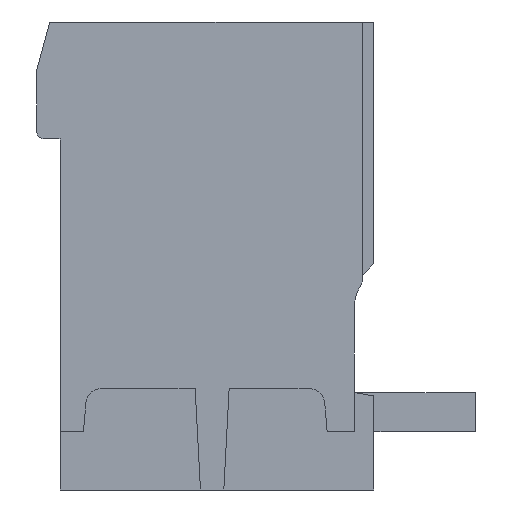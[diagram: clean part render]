
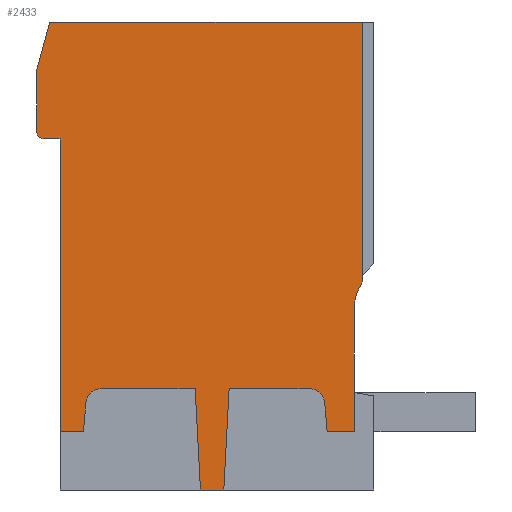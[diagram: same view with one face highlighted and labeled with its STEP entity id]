
A CAD part, left-side view. The second image highlights one B-rep face of the part: STEP entity #2433.
In plain terms, the highlighted planar face has unit normal (-1, 0, 0).
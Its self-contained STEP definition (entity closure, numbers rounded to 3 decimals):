
#135=CARTESIAN_POINT('',(-8.4,2.737,-9.8));
#136=DIRECTION('',(-1.,0.,0.));
#137=DIRECTION('',(0.,0.,1.));
#138=AXIS2_PLACEMENT_3D('',#135,#136,#137);
#140=DIRECTION('',(0.,0.087,-0.996));
#141=VECTOR('',#140,0.738);
#142=CARTESIAN_POINT('',(-8.4,3.136,-9.765));
#143=LINE('',#142,#141);
#144=DIRECTION('',(0.,1.,0.));
#145=VECTOR('',#144,0.6);
#146=CARTESIAN_POINT('',(-8.4,3.2,-10.5));
#147=LINE('',#146,#145);
#148=DIRECTION('',(0.,0.,1.));
#149=VECTOR('',#148,7.5);
#150=CARTESIAN_POINT('',(-8.4,3.8,-10.5));
#151=LINE('',#150,#149);
#152=DIRECTION('',(0.,1.,0.));
#153=VECTOR('',#152,0.4);
#154=CARTESIAN_POINT('',(-8.4,3.8,-3.));
#155=LINE('',#154,#153);
#156=CARTESIAN_POINT('',(-8.4,4.2,-2.8));
#157=DIRECTION('',(1.,0.,0.));
#158=DIRECTION('',(0.,0.,-1.));
#159=AXIS2_PLACEMENT_3D('',#156,#157,#158);
#161=DIRECTION('',(0.,0.,1.));
#162=VECTOR('',#161,1.55);
#163=CARTESIAN_POINT('',(-8.4,4.4,-2.8));
#164=LINE('',#163,#162);
#165=DIRECTION('',(0.,-0.259,0.966));
#166=VECTOR('',#165,1.294);
#167=CARTESIAN_POINT('',(-8.4,4.4,-1.25));
#168=LINE('',#167,#166);
#169=DIRECTION('',(0.,-1.,0.));
#170=VECTOR('',#169,8.015);
#171=CARTESIAN_POINT('',(-8.4,4.065,0.));
#172=LINE('',#171,#170);
#173=DIRECTION('',(0.,0.,-1.));
#174=VECTOR('',#173,6.637);
#175=CARTESIAN_POINT('',(-8.4,-3.95,0.));
#176=LINE('',#175,#174);
#177=CARTESIAN_POINT('',(-8.4,-3.75,-6.637));
#178=DIRECTION('',(1.,0.,0.));
#179=DIRECTION('',(0.,-1.,0.));
#180=AXIS2_PLACEMENT_3D('',#177,#178,#179);
#182=CARTESIAN_POINT('',(-8.4,-4.75,-7.3));
#183=DIRECTION('',(-1.,0.,0.));
#184=DIRECTION('',(0.,0.833,0.553));
#185=AXIS2_PLACEMENT_3D('',#182,#183,#184);
#187=DIRECTION('',(0.,0.,-1.));
#188=VECTOR('',#187,3.2);
#189=CARTESIAN_POINT('',(-8.4,-3.75,-7.3));
#190=LINE('',#189,#188);
#191=DIRECTION('',(0.,1.,0.));
#192=VECTOR('',#191,0.7);
#193=CARTESIAN_POINT('',(-8.4,-3.75,-10.5));
#194=LINE('',#193,#192);
#195=DIRECTION('',(0.,0.087,0.996));
#196=VECTOR('',#195,0.738);
#197=CARTESIAN_POINT('',(-8.4,-3.05,-10.5));
#198=LINE('',#197,#196);
#199=CARTESIAN_POINT('',(-8.4,-2.587,-9.8));
#200=DIRECTION('',(-1.,0.,0.));
#201=DIRECTION('',(0.,-0.996,0.087));
#202=AXIS2_PLACEMENT_3D('',#199,#200,#201);
#204=DIRECTION('',(0.,1.,0.));
#205=VECTOR('',#204,2.051);
#206=CARTESIAN_POINT('',(-8.4,-2.587,-9.4));
#207=LINE('',#206,#205);
#208=DIRECTION('',(0.,0.052,-0.999));
#209=VECTOR('',#208,2.604);
#210=CARTESIAN_POINT('',(-8.4,-0.536,-9.4));
#211=LINE('',#210,#209);
#212=DIRECTION('',(0.,1.,0.));
#213=VECTOR('',#212,0.6);
#214=CARTESIAN_POINT('',(-8.4,-0.4,-12.));
#215=LINE('',#214,#213);
#216=DIRECTION('',(0.,0.052,0.999));
#217=VECTOR('',#216,2.604);
#218=CARTESIAN_POINT('',(-8.4,0.2,-12.));
#219=LINE('',#218,#217);
#220=DIRECTION('',(0.,1.,0.));
#221=VECTOR('',#220,2.401);
#222=CARTESIAN_POINT('',(-8.4,0.336,-9.4));
#223=LINE('',#222,#221);
#1877=CARTESIAN_POINT('',(-8.4,3.8,-3.));
#1878=CARTESIAN_POINT('',(-8.4,4.2,-3.));
#1879=VERTEX_POINT('',#1877);
#1880=VERTEX_POINT('',#1878);
#1881=CARTESIAN_POINT('',(-8.4,4.4,-2.8));
#1882=CARTESIAN_POINT('',(-8.4,4.4,-1.25));
#1883=VERTEX_POINT('',#1881);
#1884=VERTEX_POINT('',#1882);
#1885=CARTESIAN_POINT('',(-8.4,4.065,0.));
#1886=VERTEX_POINT('',#1885);
#1887=CARTESIAN_POINT('',(-8.4,-3.95,0.));
#1888=VERTEX_POINT('',#1887);
#1993=CARTESIAN_POINT('',(-8.4,-3.95,-6.637));
#1994=CARTESIAN_POINT('',(-8.4,-3.917,-6.747));
#1995=VERTEX_POINT('',#1993);
#1996=VERTEX_POINT('',#1994);
#1997=CARTESIAN_POINT('',(-8.4,-3.75,-7.3));
#1998=VERTEX_POINT('',#1997);
#2013=CARTESIAN_POINT('',(-8.4,2.737,-9.4));
#2014=CARTESIAN_POINT('',(-8.4,3.136,-9.765));
#2015=VERTEX_POINT('',#2013);
#2016=VERTEX_POINT('',#2014);
#2017=CARTESIAN_POINT('',(-8.4,3.2,-10.5));
#2018=VERTEX_POINT('',#2017);
#2019=CARTESIAN_POINT('',(-8.4,3.8,-10.5));
#2020=VERTEX_POINT('',#2019);
#2021=CARTESIAN_POINT('',(-8.4,0.2,-12.));
#2022=CARTESIAN_POINT('',(-8.4,0.336,-9.4));
#2023=VERTEX_POINT('',#2021);
#2024=VERTEX_POINT('',#2022);
#2031=CARTESIAN_POINT('',(-8.4,-0.4,-12.));
#2032=VERTEX_POINT('',#2031);
#2033=CARTESIAN_POINT('',(-8.4,-3.75,-10.5));
#2034=VERTEX_POINT('',#2033);
#2182=CARTESIAN_POINT('',(-8.4,-0.536,-9.4));
#2183=VERTEX_POINT('',#2182);
#2184=CARTESIAN_POINT('',(-8.4,-3.05,-10.5));
#2185=VERTEX_POINT('',#2184);
#2186=CARTESIAN_POINT('',(-8.4,-2.986,-9.765));
#2187=VERTEX_POINT('',#2186);
#2188=CARTESIAN_POINT('',(-8.4,-2.587,-9.4));
#2189=VERTEX_POINT('',#2188);
#2384=CARTESIAN_POINT('',(-8.4,0.,0.));
#2385=DIRECTION('',(1.,0.,0.));
#2386=DIRECTION('',(0.,0.,-1.));
#2387=AXIS2_PLACEMENT_3D('',#2384,#2385,#2386);
#2388=PLANE('',#2387);
#2390=ORIENTED_EDGE('',*,*,#2389,.T.);
#2392=ORIENTED_EDGE('',*,*,#2391,.T.);
#2394=ORIENTED_EDGE('',*,*,#2393,.T.);
#2396=ORIENTED_EDGE('',*,*,#2395,.T.);
#2398=ORIENTED_EDGE('',*,*,#2397,.T.);
#2400=ORIENTED_EDGE('',*,*,#2399,.T.);
#2402=ORIENTED_EDGE('',*,*,#2401,.T.);
#2404=ORIENTED_EDGE('',*,*,#2403,.T.);
#2406=ORIENTED_EDGE('',*,*,#2405,.T.);
#2408=ORIENTED_EDGE('',*,*,#2407,.T.);
#2410=ORIENTED_EDGE('',*,*,#2409,.T.);
#2412=ORIENTED_EDGE('',*,*,#2411,.T.);
#2414=ORIENTED_EDGE('',*,*,#2413,.T.);
#2416=ORIENTED_EDGE('',*,*,#2415,.T.);
#2418=ORIENTED_EDGE('',*,*,#2417,.T.);
#2420=ORIENTED_EDGE('',*,*,#2419,.T.);
#2422=ORIENTED_EDGE('',*,*,#2421,.T.);
#2424=ORIENTED_EDGE('',*,*,#2423,.T.);
#2426=ORIENTED_EDGE('',*,*,#2425,.T.);
#2428=ORIENTED_EDGE('',*,*,#2427,.T.);
#2430=ORIENTED_EDGE('',*,*,#2429,.T.);
#2431=EDGE_LOOP('',(#2390,#2392,#2394,#2396,#2398,#2400,#2402,#2404,#2406,#2408,
#2410,#2412,#2414,#2416,#2418,#2420,#2422,#2424,#2426,#2428,#2430));
#2432=FACE_OUTER_BOUND('',#2431,.F.);
#139=CIRCLE('',#138,0.4);
#160=CIRCLE('',#159,0.2);
#181=CIRCLE('',#180,0.2);
#186=CIRCLE('',#185,1.);
#203=CIRCLE('',#202,0.4);
#2389=EDGE_CURVE('',#2015,#2016,#139,.T.);
#2391=EDGE_CURVE('',#2016,#2018,#143,.T.);
#2393=EDGE_CURVE('',#2018,#2020,#147,.T.);
#2395=EDGE_CURVE('',#2020,#1879,#151,.T.);
#2397=EDGE_CURVE('',#1879,#1880,#155,.T.);
#2399=EDGE_CURVE('',#1880,#1883,#160,.T.);
#2401=EDGE_CURVE('',#1883,#1884,#164,.T.);
#2403=EDGE_CURVE('',#1884,#1886,#168,.T.);
#2405=EDGE_CURVE('',#1886,#1888,#172,.T.);
#2407=EDGE_CURVE('',#1888,#1995,#176,.T.);
#2409=EDGE_CURVE('',#1995,#1996,#181,.T.);
#2411=EDGE_CURVE('',#1996,#1998,#186,.T.);
#2413=EDGE_CURVE('',#1998,#2034,#190,.T.);
#2415=EDGE_CURVE('',#2034,#2185,#194,.T.);
#2417=EDGE_CURVE('',#2185,#2187,#198,.T.);
#2419=EDGE_CURVE('',#2187,#2189,#203,.T.);
#2421=EDGE_CURVE('',#2189,#2183,#207,.T.);
#2423=EDGE_CURVE('',#2183,#2032,#211,.T.);
#2425=EDGE_CURVE('',#2032,#2023,#215,.T.);
#2427=EDGE_CURVE('',#2023,#2024,#219,.T.);
#2429=EDGE_CURVE('',#2024,#2015,#223,.T.);
#2433=ADVANCED_FACE('',(#2432),#2388,.F.);
